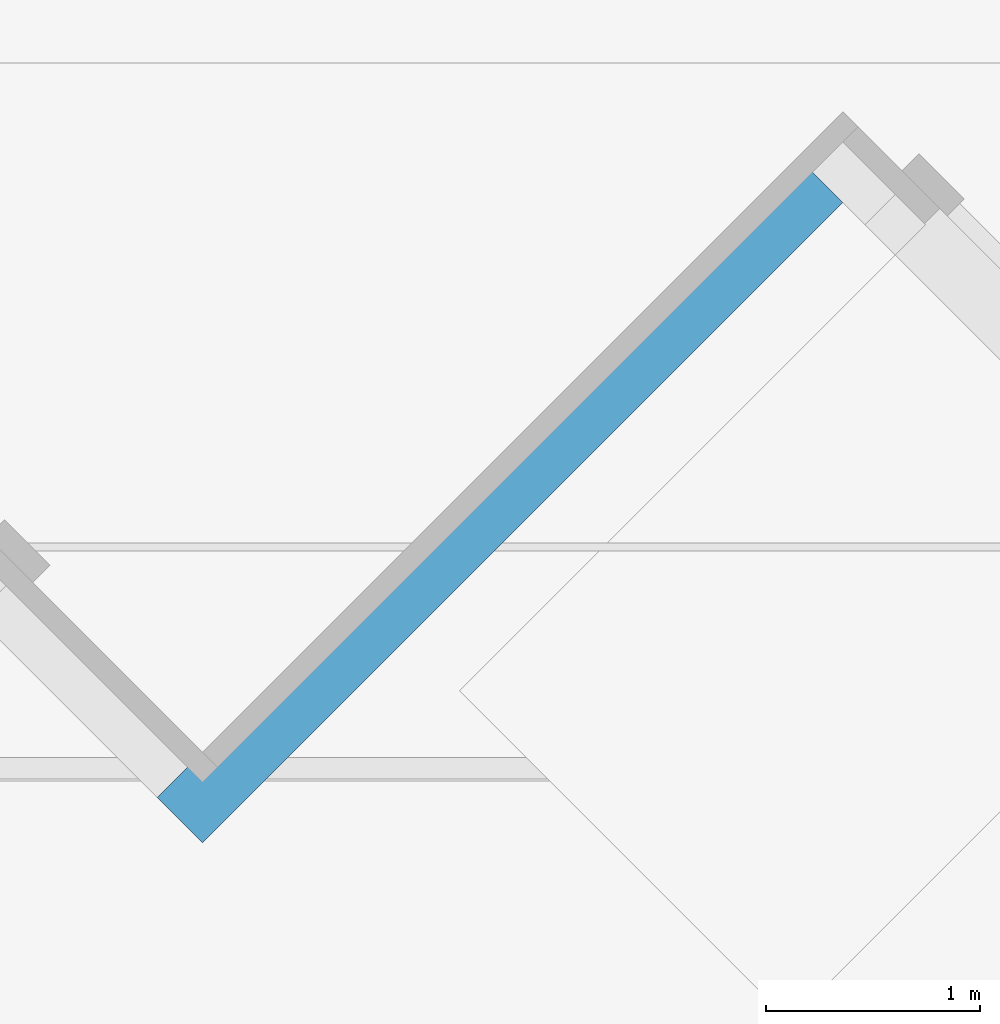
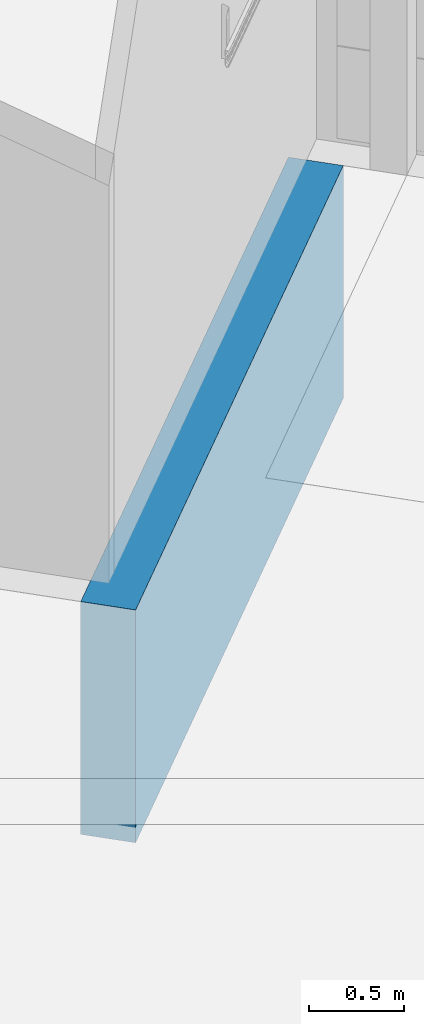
# One storey, part 33 of 64: 1 wall.
"""IFC2X3 building model written with IfcOpenShell, lengths in millimetres."""

from ifc_helpers import new_model, entity, si_unit, converted_unit, derived_unit, direction, frame, frame_2d, origin, place, context, subcontext, project, spatial, rectangle, extrude, material, layer, layer_set, layer_usage, type_object, element, save


model = new_model("IFC2X3")

# Units and contexts
model_context = context("Model", 3, precision=0.01, world=origin(), true_north=direction((4.05803320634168e-15, -1.0)))
body_context = subcontext(model_context, "Body", "Model", "MODEL_VIEW")
ifc_project = project(units=[si_unit("LENGTHUNIT", "METRE", prefix="MILLI"), si_unit("AREAUNIT", "SQUARE_METRE"), si_unit("VOLUMEUNIT", "CUBIC_METRE"), converted_unit("PLANEANGLEUNIT", "DEGREE", entity("IfcRatioMeasure", 0.0174532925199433), si_unit("PLANEANGLEUNIT", "RADIAN"), dimensions=[0, 0, 0, 0, 0, 0, 0]), si_unit("MASSUNIT", "GRAM", prefix="KILO"), derived_unit("MASSDENSITYUNIT", [(si_unit("MASSUNIT", "GRAM", prefix="KILO"), 1), (si_unit("LENGTHUNIT", "METRE"), -3)]), si_unit("TIMEUNIT", "SECOND"), si_unit("FREQUENCYUNIT", "HERTZ"), si_unit("THERMODYNAMICTEMPERATUREUNIT", "DEGREE_CELSIUS"), derived_unit("THERMALTRANSMITTANCEUNIT", [(si_unit("MASSUNIT", "GRAM", prefix="KILO"), 1), (si_unit("THERMODYNAMICTEMPERATUREUNIT", "KELVIN"), -1), (si_unit("TIMEUNIT", "SECOND"), -3)]), derived_unit("VOLUMETRICFLOWRATEUNIT", [(si_unit("LENGTHUNIT", "METRE"), 3), (si_unit("TIMEUNIT", "SECOND"), -1)]), si_unit("ELECTRICCURRENTUNIT", "AMPERE"), si_unit("ELECTRICVOLTAGEUNIT", "VOLT"), si_unit("POWERUNIT", "WATT"), si_unit("FORCEUNIT", "NEWTON", prefix="KILO"), si_unit("ILLUMINANCEUNIT", "LUX"), si_unit("LUMINOUSFLUXUNIT", "LUMEN"), si_unit("LUMINOUSINTENSITYUNIT", "CANDELA"), derived_unit("USERDEFINED", [(si_unit("MASSUNIT", "GRAM", prefix="KILO"), -1), (si_unit("LENGTHUNIT", "METRE"), -2), (si_unit("TIMEUNIT", "SECOND"), 3), (si_unit("LUMINOUSFLUXUNIT", "LUMEN"), 1)]), derived_unit("LINEARVELOCITYUNIT", [(si_unit("LENGTHUNIT", "METRE"), 1), (si_unit("TIMEUNIT", "SECOND"), -1)]), si_unit("PRESSUREUNIT", "PASCAL"), derived_unit("USERDEFINED", [(si_unit("LENGTHUNIT", "METRE"), -2), (si_unit("MASSUNIT", "GRAM", prefix="KILO"), 1), (si_unit("TIMEUNIT", "SECOND"), -2)])], contexts=[model_context])

# Site, building, storey
site_placement = place(None, frame((927466.849349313, 583801.882853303, 0.0), z_axis=(0.0, 0.0, 1.0), x_axis=(-1.0, 0.0, 0.0)))
site = spatial("IfcSite", under=ifc_project, at=site_placement, Name="Surface", CompositionType="ELEMENT")
building_placement = place(site_placement, origin())
building = spatial("IfcBuilding", under=site, at=building_placement, CompositionType="ELEMENT")
storey_placement = place(building_placement, frame((0.0, 0.0, 44170.0)))
storey = spatial("IfcBuildingStorey", under=building, at=storey_placement, Name="Ground FFL", CompositionType="ELEMENT", Elevation=44170.0)

# Wall
ifc_material = material(Name="conc bund")
ifc_layer = layer(ifc_material, 300.0)
ifc_layer_set = layer_set([ifc_layer], Name="Basic Wall:300 bund wall")
ifc_layer_usage = layer_usage(ifc_layer_set, "AXIS2", "POSITIVE", -150.0)
wall_type = type_object("IfcWallType", Name="Basic Wall:300 bund wall", PredefinedType="STANDARD", material=ifc_layer_set)
wall_placement = place(storey_placement, frame((-77950.4008359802, -33356.1242200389, -1500.0), z_axis=(0.0, 0.0, 1.0), x_axis=(0.70710678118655, 0.707106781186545, 0.0)))
element("IfcWallStandardCase", 1, at=wall_placement, inside=storey, type_object=wall_type, material=ifc_layer_usage, Name="Basic Wall:300 bund wall", ObjectType="Basic Wall:300 bund wall", context=body_context, shape_type="SweptSolid", body=[
    extrude(rectangle(XDim=4232.26267936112, YDim=299.999999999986, at=frame_2d((2116.13133968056, 5.96855898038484e-13), x_axis=(-1.0, 0.0))), origin(), (0.0, 0.0, 1.0), 1500.00000000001),
])

save(model, "model.ifc")
